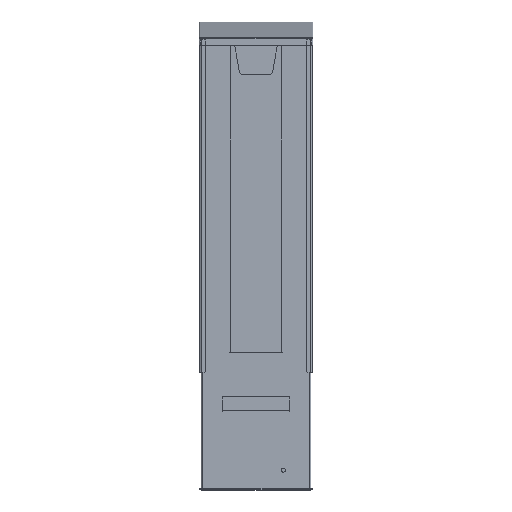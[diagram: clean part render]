
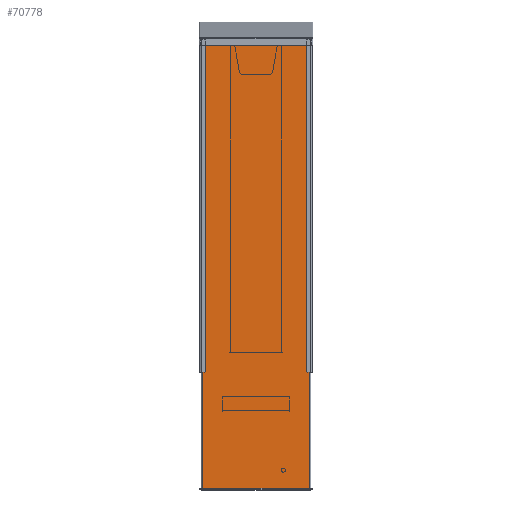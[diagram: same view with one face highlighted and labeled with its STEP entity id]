
A CAD part, top view. The second image highlights one B-rep face of the part: STEP entity #70778.
In plain terms, the highlighted planar face has unit normal (0, 0, 1).
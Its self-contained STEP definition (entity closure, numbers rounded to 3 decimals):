
#367=DIRECTION('',(1.,0.,0.));
#368=VECTOR('',#367,238.2);
#369=CARTESIAN_POINT('',(-119.1,1002.,110.));
#370=LINE('1337',#369,#368);
#566=DIRECTION('',(1.,0.,0.));
#567=VECTOR('',#566,0.5);
#568=CARTESIAN_POINT('',(-99.5,0.,110.));
#569=LINE('2068',#568,#567);
#2569=DIRECTION('',(0.,1.,0.));
#2570=VECTOR('',#2569,1002.);
#2571=CARTESIAN_POINT('',(119.1,0.,110.));
#2572=LINE('2060',#2571,#2570);
#2582=DIRECTION('',(1.,0.,0.));
#2583=VECTOR('',#2582,19.6);
#2584=CARTESIAN_POINT('',(-119.1,0.,110.));
#2585=LINE('2003',#2584,#2583);
#2586=DIRECTION('',(1.,0.,0.));
#2587=VECTOR('',#2586,19.6);
#2588=CARTESIAN_POINT('',(99.5,0.,110.));
#2589=LINE('2007',#2588,#2587);
#2590=DIRECTION('',(1.,0.,0.));
#2591=VECTOR('',#2590,30.);
#2592=CARTESIAN_POINT('',(69.,0.,110.));
#2593=LINE('2006',#2592,#2591);
#2594=DIRECTION('',(1.,0.,0.));
#2595=VECTOR('',#2594,0.5);
#2596=CARTESIAN_POINT('',(68.5,0.,110.));
#2597=LINE('2080',#2596,#2595);
#2598=DIRECTION('',(1.,0.,0.));
#2599=VECTOR('',#2598,137.);
#2600=CARTESIAN_POINT('',(-68.5,0.,110.));
#2601=LINE('2005',#2600,#2599);
#2602=DIRECTION('',(1.,0.,0.));
#2603=VECTOR('',#2602,0.5);
#2604=CARTESIAN_POINT('',(-69.,0.,110.));
#2605=LINE('2079',#2604,#2603);
#2606=DIRECTION('',(1.,0.,0.));
#2607=VECTOR('',#2606,30.);
#2608=CARTESIAN_POINT('',(-99.,0.,110.));
#2609=LINE('2004',#2608,#2607);
#2624=DIRECTION('',(0.,1.,0.));
#2625=VECTOR('',#2624,1002.);
#2626=CARTESIAN_POINT('',(-119.1,0.,110.));
#2627=LINE('2057',#2626,#2625);
#26873=DIRECTION('',(1.,0.,0.));
#26874=VECTOR('',#26873,0.5);
#26875=CARTESIAN_POINT('',(99.,0.,110.));
#26876=LINE('2070',#26875,#26874);
#64264=CARTESIAN_POINT('',(-119.1,1002.,110.));
#64265=CARTESIAN_POINT('',(119.1,1002.,110.));
#64266=VERTEX_POINT('',#64264);
#64267=VERTEX_POINT('',#64265);
#65184=CARTESIAN_POINT('',(-119.1,0.,110.));
#65185=CARTESIAN_POINT('',(-99.5,0.,110.));
#65186=VERTEX_POINT('',#65184);
#65187=VERTEX_POINT('',#65185);
#65188=CARTESIAN_POINT('',(-99.,0.,110.));
#65189=CARTESIAN_POINT('',(-69.,0.,110.));
#65190=VERTEX_POINT('',#65188);
#65191=VERTEX_POINT('',#65189);
#65192=CARTESIAN_POINT('',(-68.5,0.,110.));
#65193=CARTESIAN_POINT('',(68.5,0.,110.));
#65194=VERTEX_POINT('',#65192);
#65195=VERTEX_POINT('',#65193);
#65196=CARTESIAN_POINT('',(69.,0.,110.));
#65197=CARTESIAN_POINT('',(99.,0.,110.));
#65198=VERTEX_POINT('',#65196);
#65199=VERTEX_POINT('',#65197);
#65200=CARTESIAN_POINT('',(99.5,0.,110.));
#65201=CARTESIAN_POINT('',(119.1,0.,110.));
#65202=VERTEX_POINT('',#65200);
#65203=VERTEX_POINT('',#65201);
#70755=CARTESIAN_POINT('',(-122.5,0.,110.));
#70756=DIRECTION('',(0.,0.,1.));
#70757=DIRECTION('',(1.,0.,0.));
#70758=AXIS2_PLACEMENT_3D('',#70755,#70756,#70757);
#70759=PLANE('42',#70758);
#70760=ORIENTED_EDGE('2003',*,*,#69582,.F.);
#70762=ORIENTED_EDGE('2057',*,*,#70761,.T.);
#70763=ORIENTED_EDGE('1337',*,*,#68201,.T.);
#70764=ORIENTED_EDGE('2060',*,*,#70740,.F.);
#70765=ORIENTED_EDGE('2007',*,*,#69598,.F.);
#70767=ORIENTED_EDGE('2070',*,*,#70766,.F.);
#70768=ORIENTED_EDGE('2006',*,*,#69594,.F.);
#70770=ORIENTED_EDGE('2080',*,*,#70769,.F.);
#70771=ORIENTED_EDGE('2005',*,*,#69590,.F.);
#70773=ORIENTED_EDGE('2079',*,*,#70772,.F.);
#70774=ORIENTED_EDGE('2004',*,*,#69586,.F.);
#70775=ORIENTED_EDGE('2068',*,*,#68404,.F.);
#70776=EDGE_LOOP('42',(#70760,#70762,#70763,#70764,#70765,#70767,#70768,#70770,
#70771,#70773,#70774,#70775));
#70777=FACE_OUTER_BOUND('42',#70776,.F.);
#68201=EDGE_CURVE('1337',#64266,#64267,#370,.T.);
#68404=EDGE_CURVE('2068',#65187,#65190,#569,.T.);
#69582=EDGE_CURVE('2003',#65186,#65187,#2585,.T.);
#69586=EDGE_CURVE('2004',#65190,#65191,#2609,.T.);
#69590=EDGE_CURVE('2005',#65194,#65195,#2601,.T.);
#69594=EDGE_CURVE('2006',#65198,#65199,#2593,.T.);
#69598=EDGE_CURVE('2007',#65202,#65203,#2589,.T.);
#70740=EDGE_CURVE('2060',#65203,#64267,#2572,.T.);
#70761=EDGE_CURVE('2057',#65186,#64266,#2627,.T.);
#70766=EDGE_CURVE('2070',#65199,#65202,#26876,.T.);
#70769=EDGE_CURVE('2080',#65195,#65198,#2597,.T.);
#70772=EDGE_CURVE('2079',#65191,#65194,#2605,.T.);
#70778=ADVANCED_FACE('42',(#70777),#70759,.T.);
